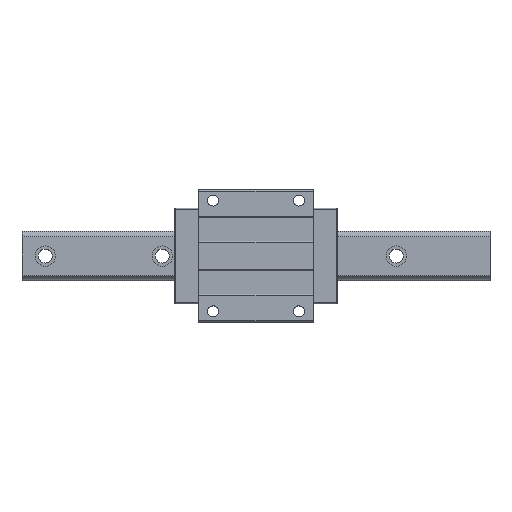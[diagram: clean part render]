
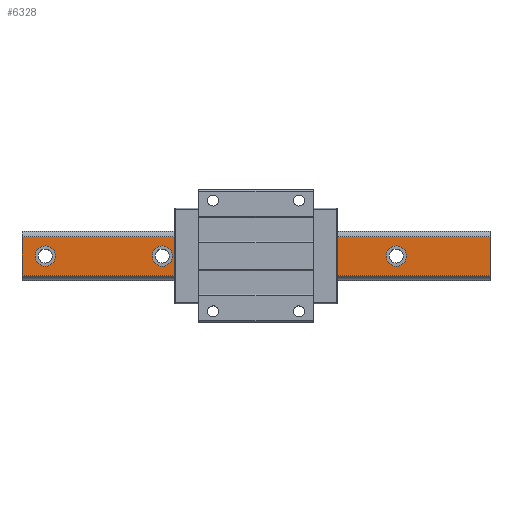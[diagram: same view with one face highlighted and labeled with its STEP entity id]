
A CAD part, top view. The second image highlights one B-rep face of the part: STEP entity #6328.
In plain terms, the highlighted planar face has unit normal (0, 0, 1).
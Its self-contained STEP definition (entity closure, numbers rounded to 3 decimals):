
#5 = CIRCLE ( 'NONE', #5118, 13. ) ;
#31 = AXIS2_PLACEMENT_3D ( 'NONE', #131, #3595, #1430 ) ;
#131 = CARTESIAN_POINT ( 'NONE',  ( 180., 0., 53. ) ) ;
#253 = DIRECTION ( 'NONE',  ( 0., 0., 1. ) ) ;
#275 = CIRCLE ( 'NONE', #31, 13. ) ;
#370 = ORIENTED_EDGE ( 'NONE', *, *, #1802, .F. ) ;
#483 = AXIS2_PLACEMENT_3D ( 'NONE', #6651, #1553, #1009 ) ;
#592 = DIRECTION ( 'NONE',  ( 1., 0., 0. ) ) ;
#599 = EDGE_CURVE ( 'NONE', #4680, #6520, #5117, .T. ) ;
#723 = PLANE ( 'NONE',  #4190 ) ;
#752 = DIRECTION ( 'NONE',  ( 0., -1., 0. ) ) ;
#771 = EDGE_LOOP ( 'NONE', ( #1499, #6886 ) ) ;
#777 = EDGE_CURVE ( 'NONE', #1425, #3329, #3928, .T. ) ;
#788 = CARTESIAN_POINT ( 'NONE',  ( 167., 0., 53. ) ) ;
#930 = VERTEX_POINT ( 'NONE', #3662 ) ;
#987 = CARTESIAN_POINT ( 'NONE',  ( -300., 24.864, 53. ) ) ;
#1009 = DIRECTION ( 'NONE',  ( 1., 0., 0. ) ) ;
#1124 = ORIENTED_EDGE ( 'NONE', *, *, #5105, .T. ) ;
#1145 = CARTESIAN_POINT ( 'NONE',  ( 30., 0., 53. ) ) ;
#1202 = AXIS2_PLACEMENT_3D ( 'NONE', #1145, #7345, #3273 ) ;
#1385 = ORIENTED_EDGE ( 'NONE', *, *, #4112, .F. ) ;
#1425 = VERTEX_POINT ( 'NONE', #7358 ) ;
#1430 = DIRECTION ( 'NONE',  ( 1., 0., 0. ) ) ;
#1499 = ORIENTED_EDGE ( 'NONE', *, *, #777, .F. ) ;
#1509 = EDGE_CURVE ( 'NONE', #1586, #6253, #6093, .T. ) ;
#1553 = DIRECTION ( 'NONE',  ( 0., 0., 1. ) ) ;
#1567 = LINE ( 'NONE', #3910, #1649 ) ;
#1586 = VERTEX_POINT ( 'NONE', #5197 ) ;
#1639 = DIRECTION ( 'NONE',  ( -1., 0., 0. ) ) ;
#1649 = VECTOR ( 'NONE', #1639, 1000. ) ;
#1734 = CARTESIAN_POINT ( 'NONE',  ( -120., 0., 53. ) ) ;
#1736 = ORIENTED_EDGE ( 'NONE', *, *, #5988, .F. ) ;
#1802 = EDGE_CURVE ( 'NONE', #930, #5649, #275, .T. ) ;
#1834 = LINE ( 'NONE', #5187, #4047 ) ;
#1940 = EDGE_LOOP ( 'NONE', ( #370, #1736 ) ) ;
#2205 = ORIENTED_EDGE ( 'NONE', *, *, #3480, .F. ) ;
#2219 = VERTEX_POINT ( 'NONE', #987 ) ;
#2332 = DIRECTION ( 'NONE',  ( 0., 0., 1. ) ) ;
#2365 = DIRECTION ( 'NONE',  ( 1., 0., 0. ) ) ;
#2467 = FACE_BOUND ( 'NONE', #771, .T. ) ;
#2496 = EDGE_LOOP ( 'NONE', ( #3314, #3270, #6672, #1124 ) ) ;
#2770 = VECTOR ( 'NONE', #7223, 1000. ) ;
#2817 = CARTESIAN_POINT ( 'NONE',  ( 180., 0., 53. ) ) ;
#2874 = DIRECTION ( 'NONE',  ( -1., 0., 0. ) ) ;
#2880 = AXIS2_PLACEMENT_3D ( 'NONE', #6949, #4641, #3501 ) ;
#2930 = VERTEX_POINT ( 'NONE', #5802 ) ;
#2951 = FACE_BOUND ( 'NONE', #1940, .T. ) ;
#2993 = AXIS2_PLACEMENT_3D ( 'NONE', #2817, #5652, #592 ) ;
#3059 = CARTESIAN_POINT ( 'NONE',  ( 300., -24.864, 53. ) ) ;
#3270 = ORIENTED_EDGE ( 'NONE', *, *, #4347, .F. ) ;
#3273 = DIRECTION ( 'NONE',  ( 1., 0., 0. ) ) ;
#3314 = ORIENTED_EDGE ( 'NONE', *, *, #6620, .T. ) ;
#3329 = VERTEX_POINT ( 'NONE', #6244 ) ;
#3441 = CIRCLE ( 'NONE', #6407, 13. ) ;
#3480 = EDGE_CURVE ( 'NONE', #6520, #4680, #3441, .T. ) ;
#3501 = DIRECTION ( 'NONE',  ( 1., 0., 0. ) ) ;
#3545 = FACE_BOUND ( 'NONE', #4565, .T. ) ;
#3584 = DIRECTION ( 'NONE',  ( 0., 1., 0. ) ) ;
#3595 = DIRECTION ( 'NONE',  ( 0., 0., 1. ) ) ;
#3643 = EDGE_CURVE ( 'NONE', #3329, #1425, #4995, .T. ) ;
#3662 = CARTESIAN_POINT ( 'NONE',  ( 193., 0., 53. ) ) ;
#3799 = VERTEX_POINT ( 'NONE', #4110 ) ;
#3910 = CARTESIAN_POINT ( 'NONE',  ( 300., -24.864, 53. ) ) ;
#3928 = CIRCLE ( 'NONE', #6299, 13. ) ;
#3937 = EDGE_LOOP ( 'NONE', ( #2205, #4483 ) ) ;
#4047 = VECTOR ( 'NONE', #2874, 1000. ) ;
#4056 = DIRECTION ( 'NONE',  ( 1., 0., 0. ) ) ;
#4110 = CARTESIAN_POINT ( 'NONE',  ( 300., -24.864, 53. ) ) ;
#4112 = EDGE_CURVE ( 'NONE', #6253, #1586, #5, .T. ) ;
#4122 = CARTESIAN_POINT ( 'NONE',  ( 17., 0., 53. ) ) ;
#4155 = DIRECTION ( 'NONE',  ( 1., 0., 0. ) ) ;
#4190 = AXIS2_PLACEMENT_3D ( 'NONE', #3059, #5222, #3584 ) ;
#4345 = ORIENTED_EDGE ( 'NONE', *, *, #1509, .F. ) ;
#4347 = EDGE_CURVE ( 'NONE', #3799, #2930, #1567, .T. ) ;
#4483 = ORIENTED_EDGE ( 'NONE', *, *, #599, .F. ) ;
#4565 = EDGE_LOOP ( 'NONE', ( #4345, #1385 ) ) ;
#4641 = DIRECTION ( 'NONE',  ( 0., 0., 1. ) ) ;
#4680 = VERTEX_POINT ( 'NONE', #4122 ) ;
#4877 = CARTESIAN_POINT ( 'NONE',  ( 43., 0., 53. ) ) ;
#4995 = CIRCLE ( 'NONE', #483, 13. ) ;
#5105 = EDGE_CURVE ( 'NONE', #5392, #2219, #1834, .T. ) ;
#5117 = CIRCLE ( 'NONE', #1202, 13. ) ;
#5118 = AXIS2_PLACEMENT_3D ( 'NONE', #6128, #5778, #4056 ) ;
#5138 = LINE ( 'NONE', #5213, #6677 ) ;
#5187 = CARTESIAN_POINT ( 'NONE',  ( 300., 24.864, 53. ) ) ;
#5197 = CARTESIAN_POINT ( 'NONE',  ( -257., 0., 53. ) ) ;
#5213 = CARTESIAN_POINT ( 'NONE',  ( 300., -24.864, 53. ) ) ;
#5222 = DIRECTION ( 'NONE',  ( 0., 0., -1. ) ) ;
#5392 = VERTEX_POINT ( 'NONE', #6178 ) ;
#5579 = EDGE_CURVE ( 'NONE', #5392, #3799, #5138, .T. ) ;
#5649 = VERTEX_POINT ( 'NONE', #788 ) ;
#5652 = DIRECTION ( 'NONE',  ( 0., 0., 1. ) ) ;
#5700 = CARTESIAN_POINT ( 'NONE',  ( -283., 0., 53. ) ) ;
#5778 = DIRECTION ( 'NONE',  ( 0., 0., 1. ) ) ;
#5802 = CARTESIAN_POINT ( 'NONE',  ( -300., -24.864, 53. ) ) ;
#5815 = FACE_OUTER_BOUND ( 'NONE', #2496, .T. ) ;
#5988 = EDGE_CURVE ( 'NONE', #5649, #930, #6197, .T. ) ;
#6093 = CIRCLE ( 'NONE', #2880, 13. ) ;
#6128 = CARTESIAN_POINT ( 'NONE',  ( -270., 0., 53. ) ) ;
#6178 = CARTESIAN_POINT ( 'NONE',  ( 300., 24.864, 53. ) ) ;
#6179 = LINE ( 'NONE', #6706, #2770 ) ;
#6197 = CIRCLE ( 'NONE', #2993, 13. ) ;
#6244 = CARTESIAN_POINT ( 'NONE',  ( -133., 0., 53. ) ) ;
#6253 = VERTEX_POINT ( 'NONE', #5700 ) ;
#6299 = AXIS2_PLACEMENT_3D ( 'NONE', #1734, #2332, #2365 ) ;
#6328 = ADVANCED_FACE ( 'NONE', ( #2951, #6992, #2467, #3545, #5815 ), #723, .F. ) ;
#6407 = AXIS2_PLACEMENT_3D ( 'NONE', #6947, #253, #4155 ) ;
#6520 = VERTEX_POINT ( 'NONE', #4877 ) ;
#6620 = EDGE_CURVE ( 'NONE', #2219, #2930, #6179, .T. ) ;
#6651 = CARTESIAN_POINT ( 'NONE',  ( -120., 0., 53. ) ) ;
#6672 = ORIENTED_EDGE ( 'NONE', *, *, #5579, .F. ) ;
#6677 = VECTOR ( 'NONE', #752, 1000. ) ;
#6706 = CARTESIAN_POINT ( 'NONE',  ( -300., -24.864, 53. ) ) ;
#6886 = ORIENTED_EDGE ( 'NONE', *, *, #3643, .F. ) ;
#6947 = CARTESIAN_POINT ( 'NONE',  ( 30., 0., 53. ) ) ;
#6949 = CARTESIAN_POINT ( 'NONE',  ( -270., 0., 53. ) ) ;
#6992 = FACE_BOUND ( 'NONE', #3937, .T. ) ;
#7223 = DIRECTION ( 'NONE',  ( 0., -1., 0. ) ) ;
#7345 = DIRECTION ( 'NONE',  ( 0., 0., 1. ) ) ;
#7358 = CARTESIAN_POINT ( 'NONE',  ( -107., 0., 53. ) ) ;
